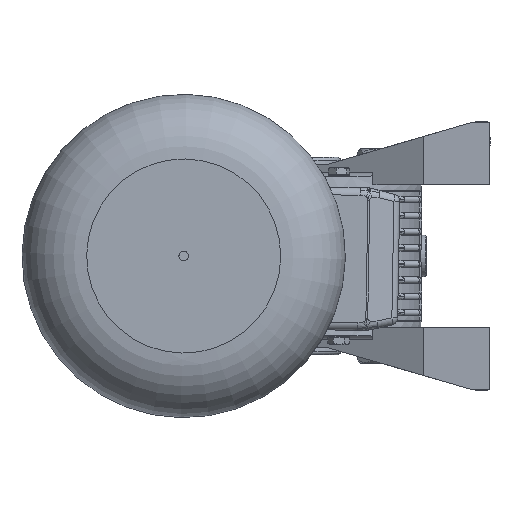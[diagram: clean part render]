
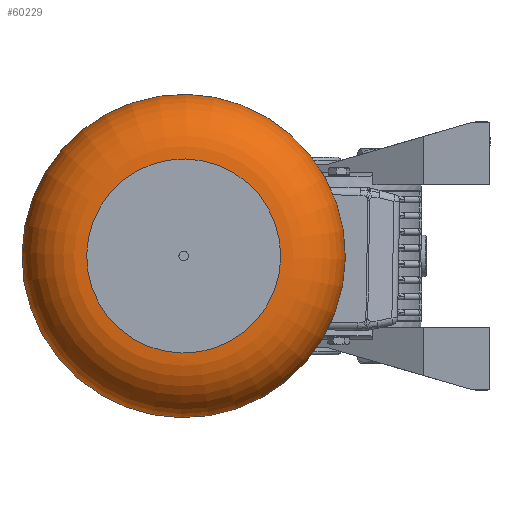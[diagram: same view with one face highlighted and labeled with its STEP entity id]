
A CAD part, left-side view. The second image highlights one B-rep face of the part: STEP entity #60229.
In plain terms, the highlighted toroidal (fillet/blend) face has major radius 51 mm and minor radius 34 mm.
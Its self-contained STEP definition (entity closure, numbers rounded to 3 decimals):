
#60202=CARTESIAN_POINT('',(346.0,0.0,0.0));
#60203=DIRECTION('',(1.0,0.0,0.0));
#60204=DIRECTION('',(0.0,0.0,-1.0));
#60205=AXIS2_PLACEMENT_3D('',#60202,#60203,#60204);
#60206=TOROIDAL_SURFACE('',#60205,51.,34.0);
#60207=CARTESIAN_POINT('',(380.0,51.,0.0));
#60208=VERTEX_POINT('',#60207);
#60209=CARTESIAN_POINT('',(380.0,0.0,0.0));
#60210=DIRECTION('',(1.0,0.0,0.0));
#60211=DIRECTION('',(0.0,1.0,0.0));
#60212=AXIS2_PLACEMENT_3D('',#60209,#60210,#60211);
#60213=CIRCLE('',#60212,51.);
#60214=EDGE_CURVE('',#60208,#60208,#60213,.T.);
#60215=ORIENTED_EDGE('',*,*,#60214,.F.);
#60216=EDGE_LOOP('',(#60215));
#60217=FACE_OUTER_BOUND('',#60216,.T.);
#60218=CARTESIAN_POINT('',(346.0,85.,0.0));
#60219=VERTEX_POINT('',#60218);
#60220=CARTESIAN_POINT('',(346.0,0.0,0.0));
#60221=DIRECTION('',(1.0,0.0,0.0));
#60222=DIRECTION('',(0.0,1.0,0.0));
#60223=AXIS2_PLACEMENT_3D('',#60220,#60221,#60222);
#60224=CIRCLE('',#60223,85.);
#60225=EDGE_CURVE('',#60219,#60219,#60224,.T.);
#60226=ORIENTED_EDGE('',*,*,#60225,.T.);
#60227=EDGE_LOOP('',(#60226));
#60228=FACE_BOUND('',#60227,.T.);
#60229=ADVANCED_FACE('',(#60217,#60228),#60206,.T.);
